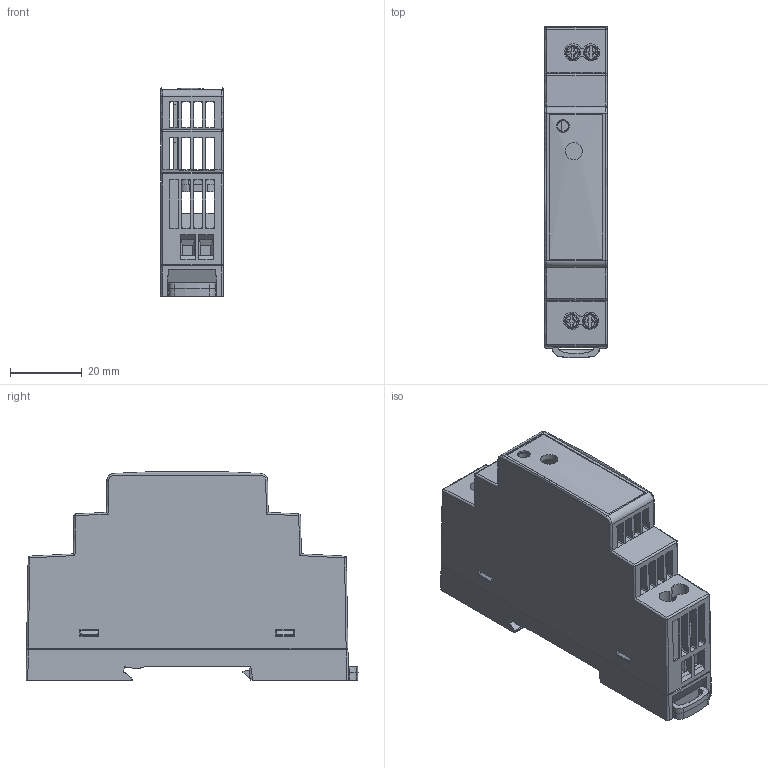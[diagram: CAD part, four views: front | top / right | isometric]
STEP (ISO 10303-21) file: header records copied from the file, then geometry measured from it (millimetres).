
FILE_DESCRIPTION(/* description */ (''),/* implementation_level */ '2;1');
FILE_NAME(/* name */ 'GW-DR15H',/* time_stamp */ '2026-05-29T06:03:34+08:00',/* author */ (''),/* organization */ (''),/* preprocessor_version */ 'ST-DEVELOPER v16.5',/* originating_system */ '',/* authorisation */ '');
FILE_SCHEMA (('AUTOMOTIVE_DESIGN'));
Length unit declared in the file: millimetre
Products named in the file (3): Document; 图块 06; 图块 04
Assembly tree (3 placements, depth 2):
  Document
    图块 06  x2
    图块 04
Bounding box: 17.5 x 92.66 x 58.26 mm (x, y, z)
Volume: 11387 mm3; surface area: 39476.6 mm2
Topology: 21 solids, 570 shells, 1577 faces, 5778 edges, 4822 vertices
Faces by surface type: plane 875, bspline 702
Entity records: 85949 total; most frequent: CARTESIAN_POINT 49779, ORIENTED_EDGE 7834, EDGE_CURVE 5441, B_SPLINE_CURVE_WITH_KNOTS 4676, VERTEX_POINT 4608, EDGE_LOOP 1641, ADVANCED_FACE 1446, FACE_OUTER_BOUND 1446
